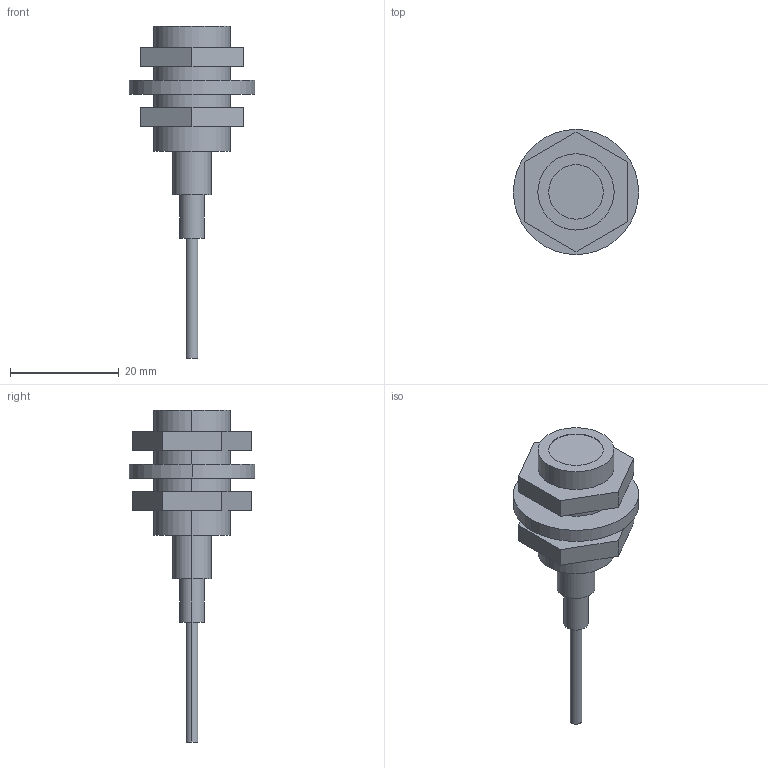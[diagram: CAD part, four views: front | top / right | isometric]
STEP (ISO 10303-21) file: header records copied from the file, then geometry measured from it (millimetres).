
FILE_DESCRIPTION (( 'STEP AP203' ), '1' );
FILE_NAME ('FT-FM10L.STEP', '2005-11-09T08:23:02', ( '' ), ( '' ), 'SwSTEP 2.0', 'SolidWorks 2004073', '' );
FILE_SCHEMA (( 'CONFIG_CONTROL_DESIGN' ));
Length unit declared in the file: millimetre
Products named in the file (1): FT-FM10L
Bounding box: 23 x 23 x 61 mm (x, y, z)
Volume: 5816.2 mm3; surface area: 3980.8 mm2
Topology: 4 solids, 4 shells, 42 faces, 90 edges, 60 vertices
Faces by surface type: plane 24, cylinder 18
Entity records: 1233 total; most frequent: DIRECTION 212, CARTESIAN_POINT 193, ORIENTED_EDGE 180, EDGE_CURVE 90, AXIS2_PLACEMENT_3D 79, VERTEX_POINT 60, LINE 54, VECTOR 54
